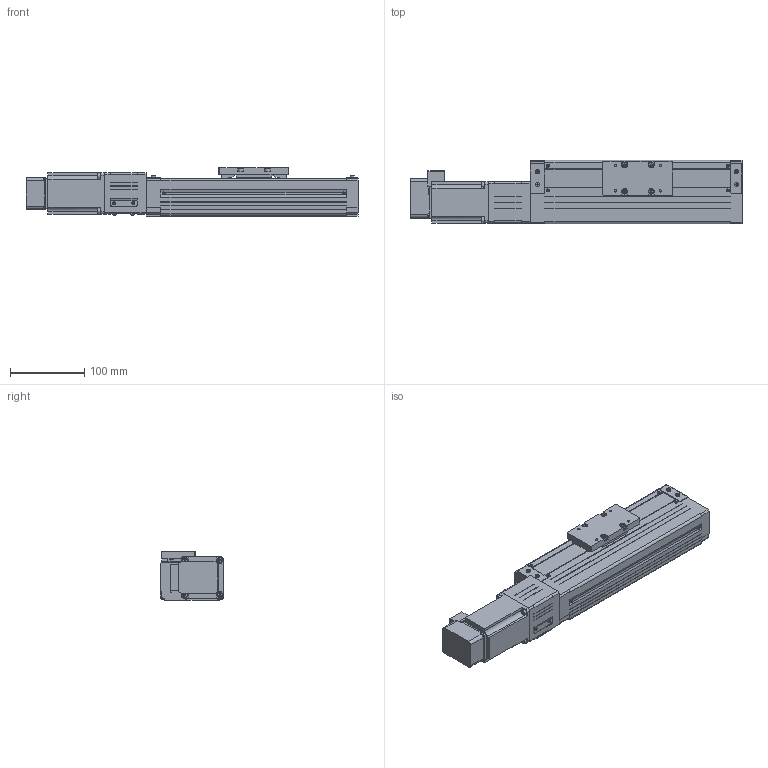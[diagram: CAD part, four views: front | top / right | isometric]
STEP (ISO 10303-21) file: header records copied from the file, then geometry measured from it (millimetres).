
FILE_DESCRIPTION((''),'2;1');
FILE_NAME('D:\製品 (図面)\カタログ用3D\SU部品\SU85×65\ダウンロード用\SU85×65-CM30\SU85×65-150-CM30.stp','2011-07-02T13:27:56',('Tsuchiya'),(''),'Autodesk Inventor 10','Autodesk Inventor 10','');
FILE_SCHEMA(('AUTOMOTIVE_DESIGN { 1 0 10303 214 1 1 1 1 }'));
Length unit declared in the file: millimetre
Products named in the file (4): SU85×65-150-CM30; SU85×65-150-CM301; SU85×65-150-CM302; SU85×65-150-CM303
Assembly tree (3 placements, depth 2):
  SU85×65-150-CM30
    SU85×65-150-CM301
    SU85×65-150-CM302
    SU85×65-150-CM303
Bounding box: 446.5 x 85 x 65 mm (x, y, z)
Volume: 1008373.8 mm3; surface area: 257369.3 mm2
Topology: 9 solids, 9 shells, 962 faces, 2534 edges, 1638 vertices
Faces by surface type: plane 798, cylinder 124, cone 24, torus 12, bspline 4
Full cylindrical faces by diameter (mm): 3.242 x8, 4 x4, 4.134 x4, 4.5 x4, 5.5 x4, 6 x1, 6.35 x1, 7 x8, 8 x1, 11.5 x1, 12 x1, 13 x1, 38.1 x2, 43 x1
Entity records: 29311 total; most frequent: CARTESIAN_POINT 5858, ORIENTED_EDGE 4838, DIRECTION 4616, EDGE_CURVE 2419, VECTOR 1924, LINE 1924, VERTEX_POINT 1604, AXIS2_PLACEMENT_3D 1346
